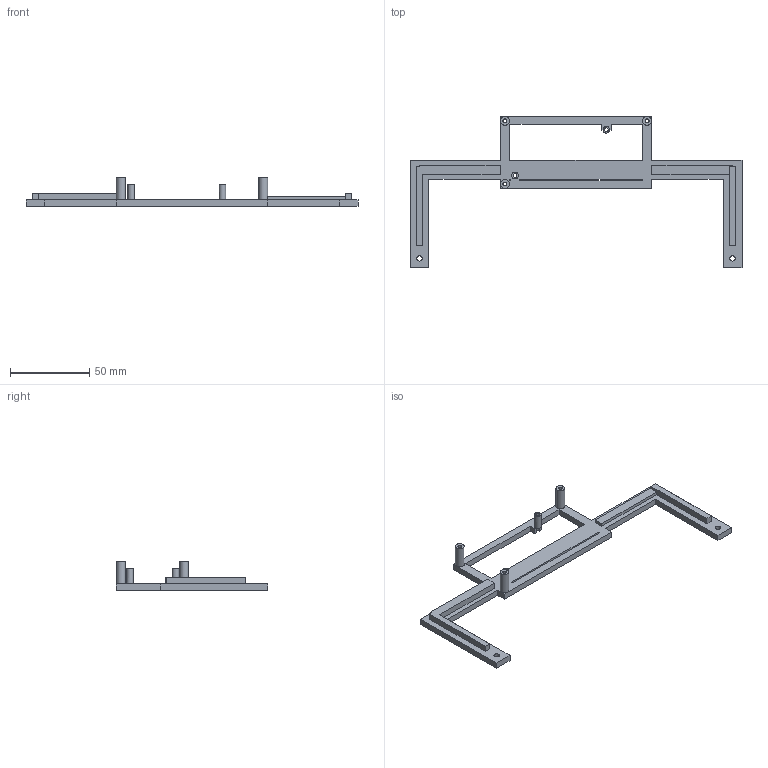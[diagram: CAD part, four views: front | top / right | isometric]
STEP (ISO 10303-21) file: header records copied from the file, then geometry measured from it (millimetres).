
FILE_DESCRIPTION(('Open CASCADE Model'),'2;1');
FILE_NAME('Open CASCADE Shape Model','2026-10-02T07:52:38',('Author'),( 'Open CASCADE'),'Open CASCADE STEP processor 7.8','Open CASCADE 7.8' ,'Unknown');
FILE_SCHEMA(('AUTOMOTIVE_DESIGN { 1 0 10303 214 1 1 1 1 }'));
Length unit declared in the file: millimetre
Products named in the file (1): Open CASCADE STEP translator 7.8 7
Bounding box: 210 x 96 x 18 mm (x, y, z)
Volume: 24843.7 mm3; surface area: 17821.8 mm2
Topology: 1 solids, 1 shells, 72 faces, 193 edges, 128 vertices
Faces by surface type: plane 60, cylinder 12
Full cylindrical faces by diameter (mm): 2.4 x5, 3.4 x2, 4.2 x2, 5.6 x3
Entity records: 4724 total; most frequent: CARTESIAN_POINT 844, DIRECTION 689, LINE 459, VECTOR 459, ORIENTED_EDGE 386, PCURVE 386, DEFINITIONAL_REPRESENTATION 386, EDGE_CURVE 193
